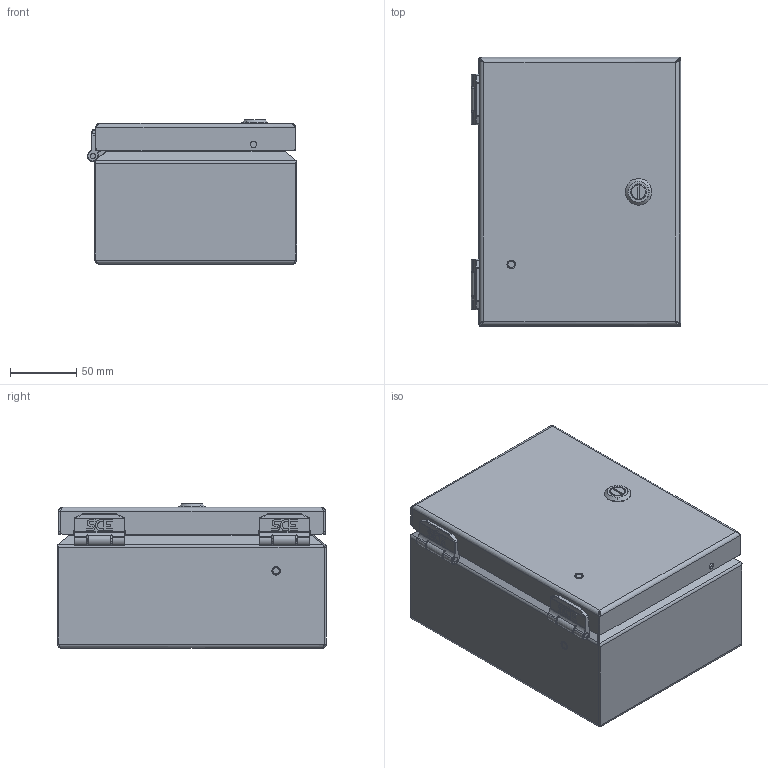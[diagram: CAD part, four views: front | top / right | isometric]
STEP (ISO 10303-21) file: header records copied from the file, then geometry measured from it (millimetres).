
FILE_DESCRIPTION((''),'2;1');
FILE_NAME('MODEL-058_ASM','2021-05-27T14:06:00',('johnh'),('SAGINAW CONTROL & ENGINEERING'),'CREO PARAMETRIC BY PTC INC, 2017260','CREO PARAMETRIC BY PTC INC, 2017260','');
FILE_SCHEMA(('AUTOMOTIVE_DESIGN { 1 0 10303 214 1 1 1 1 }'));
Length unit declared in the file: inch
Products named in the file (25): MODEL-058-BDY; MODEL-058-DR; 112643-BOX-LEAF; 112643-BOX-LEAF-STUD; 112643-BOX_ASM; 112643-DOOR-LEAF; 112643-DOOR-LEAF-STUD; 112643-DOOR_ASM; 112643-PIN; 112643_ASM; 113152; 100063; 112987_SHAFT; 112987_INSERT; 112984; 112987_SCREW; 112987_NUT; 112987_ASM; 100009; MODEL-058-GSKT; 120706; CH-ELJ_SUBPANEL; 102479; CH-ELJ_SUBPANEL-SUBASSEMBLY_ASM; MODEL-058_ASM
Assembly tree (35 placements, depth 4):
  MODEL-058_ASM
    MODEL-058-BDY
    MODEL-058-DR
    112643_ASM  x2
      112643-BOX_ASM
        112643-BOX-LEAF
        112643-BOX-LEAF-STUD
      112643-DOOR_ASM
        112643-DOOR-LEAF
        112643-DOOR-LEAF-STUD
      112643-PIN
    113152  x4
    100063  x2
    112987_ASM
      112987_SHAFT
      112987_INSERT
      112984
      112987_SCREW
      112987_NUT
    100009  x4
    MODEL-058-GSKT
    120706
    CH-ELJ_SUBPANEL-SUBASSEMBLY_ASM
      CH-ELJ_SUBPANEL
      102479  x4
Bounding box: 158 x 203.2 x 109.11 mm (x, y, z)
Volume: 306649.7 mm3; surface area: 374528.3 mm2
Topology: 34 solids, 36 shells, 2960 faces, 7563 edges, 4636 vertices
Faces by surface type: plane 1006, cylinder 862, bspline 830, cone 126, torus 116, sphere 20
Entity records: 101272 total; most frequent: CARTESIAN_POINT 54684, ORIENTED_EDGE 6990, DIRECTION 5960, EDGE_CURVE 3495, PRESENTATION_STYLE_ASSIGNMENT 3103, STYLED_ITEM 3103, CURVE_STYLE 2846, AXIS2_PLACEMENT_3D 2204
